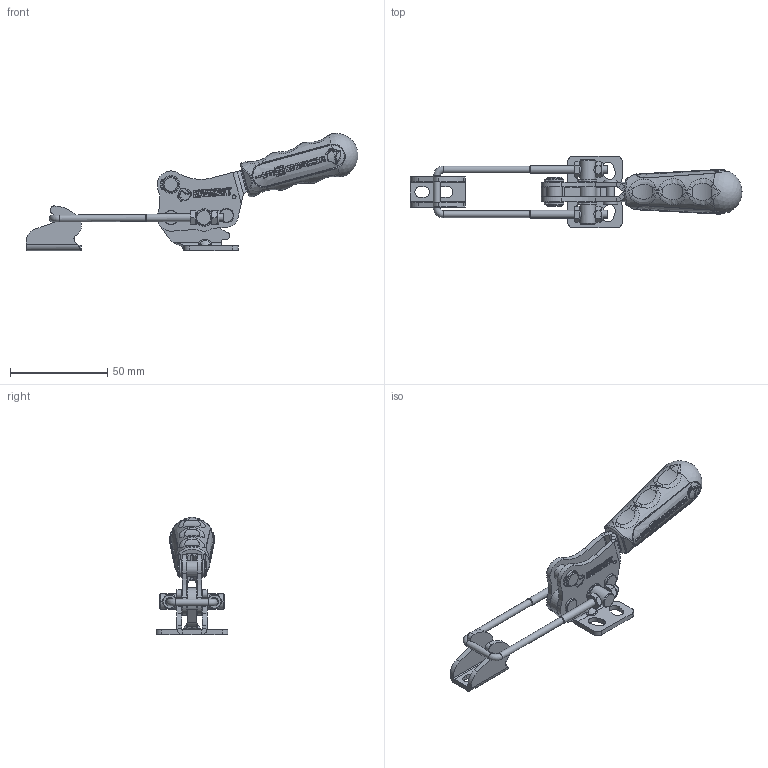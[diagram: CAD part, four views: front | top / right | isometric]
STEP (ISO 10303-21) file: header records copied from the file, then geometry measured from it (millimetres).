
FILE_DESCRIPTION(/* description */ (''),/* implementation_level */ '2;1');
FILE_NAME(/* name */ '311-2.stp',/* time_stamp */ '2019-03-30T08:07:52+03:00',/* author */ (''),/* organization */ (''),/* preprocessor_version */ 'ST-DEVELOPER v15',/* originating_system */ 'SIEMENS PLM Software NX 8.5',/* authorisation */ '');
FILE_SCHEMA (('AUTOMOTIVE_DESIGN { 1 0 10303 214 3 1 1 1 }'));
Length unit declared in the file: millimetre
Products named in the file (7): 310-350-2-04; 150-64-66; 150-63; 310-350-2-03A-B; 150-65; 310-350-2-01A-B; 311-2 MONTAJ
Assembly tree (7 placements, depth 2):
  311-2 MONTAJ
    310-350-2-01A-B
    150-65
    310-350-2-03A-B
    150-63
    150-64-66  x2
    310-350-2-04
Bounding box: 170.83 x 37 x 60.33 mm (x, y, z)
Volume: 35343.4 mm3; surface area: 21021.3 mm2
Topology: 9 solids, 15 shells, 2186 faces, 5200 edges, 3055 vertices
Faces by surface type: bspline 774, cylinder 619, plane 499, torus 189, cone 67, sphere 32, extrusion 6
Full cylindrical faces by diameter (mm): 0.75 x8, 2 x1, 2.7 x2, 2.8 x2, 2.9 x2, 3 x2, 3.5 x7, 4 x5, 4.25 x2, 5 x1, 6.844 x2, 7.5 x2, 8 x10
Entity records: 95871 total; most frequent: CARTESIAN_POINT 36217, ORIENTED_EDGE 9986, DIRECTION 8446, EDGE_CURVE 4993, AXIS2_PLACEMENT_3D 3522, VERTEX_POINT 2984, EDGE_LOOP 2329, ADVANCED_FACE 2158
